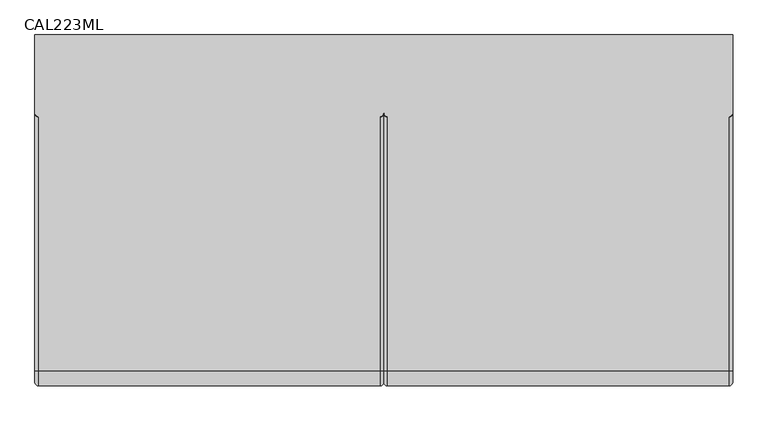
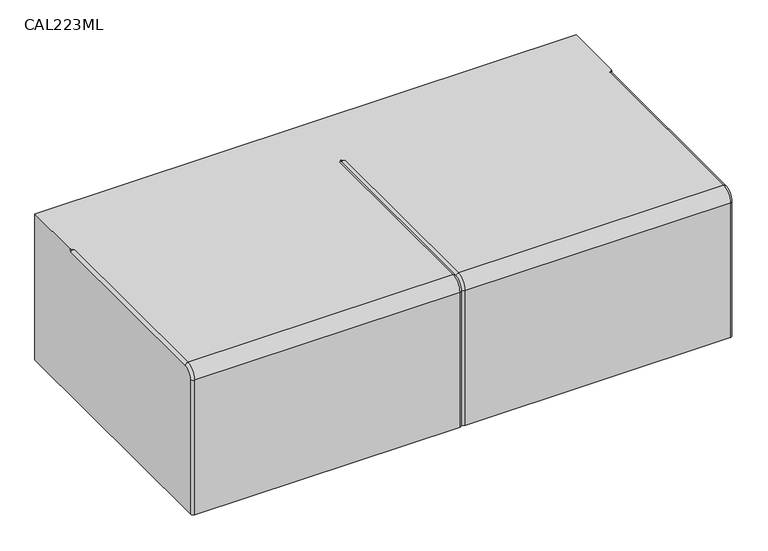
"""IFC4 building model written with IfcOpenShell, lengths in millimetres: furniture geometry, Stance_Healthacare-Carlson-Arm_Chair : CAL223ML."""

from ifc_helpers import new_model, si_unit, point, frame, origin, place, context, project, spatial, circle_curve, ellipse_curve, trimmed, source, transform, mapped, element, save
from ifc_brep_helpers import plane_surface, cylinder_surface, revolved_surface, advanced_brep


def cal223ml_a5ffef99(model_context):
    return source(origin(), model_context, "Body", "AdvancedBrep", [
        advanced_brep(
        [(584.2, 246.7364918, 120.649997), (584.2, 246.7364918, 454.025), (584.2, 115.9444954, 454.025), (584.2, 113.8812553, 447.675), (584.2, -315.1640295, 447.675), (584.2, -334.2140295, 428.625), (584.2, -334.2140295, 120.649997), (-584.2, 246.7364918, 454.025), (-584.2, 246.7364918, 120.649997), (-584.2, -334.2140295, 120.649997), (-584.2, -334.2140295, 428.625), (-584.2, -315.1640295, 447.675), (-584.2, 113.8812553, 447.675), (-584.2, 115.9444954, 454.025), (-577.85, -340.5640295, 428.625), (-577.85, -340.5640295, 120.649997), (-6.35, -340.5640295, 120.649997), (-6.35, -340.5640295, 428.625), (577.85, -340.5640295, 120.649997), (577.85, -340.5640295, 428.625), (6.35, -340.5640295, 428.625), (6.35, -340.5640295, 120.649997), (0.0, -334.2140295, 120.649997), (-577.85, 109.2677103, 454.025), (-577.85, -315.1640295, 454.025), (-6.35, -315.1640295, 454.025), (-6.35, 109.2677103, 454.025), (0.0, 115.9444954, 454.025), (6.35, 109.2677103, 454.025), (6.35, -315.1640295, 454.025), (577.85, -315.1640295, 454.025), (577.85, 109.2677103, 454.025), (0.0, 113.8812553, 447.675), (0.0, -315.1640295, 447.675), (0.0, -334.2140295, 428.625)],
        [
            (0, 1),
            (1, 2),
            (2, 3),
            (3, 4),
            (4, 5, circle_curve(frame((584.2, -315.1640295, 428.625), z_axis=(1.0, 0.0, 0.0), x_axis=(0.0, 0.0, 1.0)), 19.05)),
            (5, 6),
            (6, 0),
            (7, 8),
            (8, 9),
            (9, 10),
            (10, 11, circle_curve(frame((-584.2, -315.1640295, 428.625), z_axis=(-1.0, 0.0, 0.0), x_axis=(0.0, 0.0, 1.0)), 19.05)),
            (11, 12),
            (12, 13),
            (13, 7),
            (14, 15),
            (15, 16),
            (16, 17),
            (17, 14),
            (18, 19),
            (19, 20),
            (20, 21),
            (21, 18),
            (8, 0),
            (6, 18, circle_curve(frame((577.85, -334.2140295, 120.649997), z_axis=(0.0, 0.0, -1.0), x_axis=(0.0, 1.0, 0.0)), 6.35)),
            (21, 22, circle_curve(frame((6.35, -334.2140295, 120.649997), z_axis=(0.0, 0.0, -1.0), x_axis=(0.0, 1.0, 0.0)), 6.35)),
            (22, 16, circle_curve(frame((-6.35, -334.2140295, 120.649997), z_axis=(0.0, 0.0, -1.0), x_axis=(0.0, 1.0, 0.0)), 6.35)),
            (15, 9, circle_curve(frame((-577.85, -334.2140295, 120.649997), z_axis=(0.0, 0.0, -1.0), x_axis=(0.0, 1.0, 0.0)), 6.35)),
            (1, 7),
            (13, 23, ellipse_curve(frame((-577.85, 115.9444954, 454.025), z_axis=(0.0, 0.0, 1.0), x_axis=(0.0, -1.0, 0.0)), 6.6767851, 6.35)),
            (23, 24),
            (24, 25),
            (25, 26),
            (26, 27, ellipse_curve(frame((-6.35, 115.9444954, 454.025), z_axis=(0.0, 0.0, 1.0), x_axis=(0.0, -1.0, 0.0)), 6.6767851, 6.35)),
            (27, 28, ellipse_curve(frame((6.35, 115.9444954, 454.025), z_axis=(0.0, 0.0, 1.0), x_axis=(0.0, -1.0, 0.0)), 6.6767851, 6.35)),
            (28, 29),
            (29, 30),
            (30, 31),
            (31, 2, ellipse_curve(frame((577.85, 115.9444954, 454.025), z_axis=(0.0, 0.0, 1.0), x_axis=(0.0, -1.0, 0.0)), 6.6767851, 6.35)),
            (30, 4, circle_curve(frame((577.85, -315.1640295, 447.675), z_axis=(0.0, 1.0, 0.0), x_axis=(0.0, 0.0, -1.0)), 6.35)),
            (3, 31, ellipse_curve(frame((577.85, 113.8812553, 447.675), z_axis=(0.0, -0.8090169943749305, -0.5877852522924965), x_axis=(0.0, -0.5877852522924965, 0.8090169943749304)), 7.8490317, 6.35)),
            (11, 24, circle_curve(frame((-577.85, -315.1640295, 447.675), z_axis=(0.0, 1.0, 0.0), x_axis=(0.0, 0.0, -1.0)), 6.35)),
            (23, 12, ellipse_curve(frame((-577.85, 113.8812553, 447.675), z_axis=(0.0, -0.8090169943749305, -0.5877852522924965), x_axis=(0.0, -0.5877852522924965, 0.8090169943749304)), 7.8490317, 6.35)),
            (24, 14, circle_curve(frame((-577.85, -315.1640295, 428.625), z_axis=(1.0, 0.0, 0.0), x_axis=(0.0, 1.0, 0.0)), 25.4)),
            (17, 25, circle_curve(frame((-6.35, -315.1640295, 428.625), z_axis=(-1.0, 0.0, 0.0), x_axis=(0.0, 1.0, 0.0)), 25.4)),
            (19, 30, circle_curve(frame((577.85, -315.1640295, 428.625), z_axis=(-1.0, 0.0, 0.0), x_axis=(0.0, 1.0, 0.0)), 25.4)),
            (29, 20, circle_curve(frame((6.35, -315.1640295, 428.625), z_axis=(1.0, 0.0, 0.0), x_axis=(0.0, 1.0, 0.0)), 25.4)),
            (10, 14, circle_curve(frame((-577.85, -334.2140295, 428.625), z_axis=(0.0, 0.0, 1.0), x_axis=(0.0, 1.0, 0.0)), 6.35)),
            (19, 5, circle_curve(frame((577.85, -334.2140295, 428.625), z_axis=(0.0, 0.0, 1.0), x_axis=(0.0, 1.0, 0.0)), 6.35)),
            (32, 33),
            (33, 29, circle_curve(frame((6.35, -315.1640295, 447.675), z_axis=(0.0, 1.0, 0.0), x_axis=(0.0, 0.0, -1.0)), 6.35)),
            (28, 32, ellipse_curve(frame((6.35, 113.8812553, 447.675), z_axis=(0.0, -0.8090169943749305, -0.5877852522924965), x_axis=(0.0, -0.5877852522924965, 0.8090169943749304)), 7.8490317, 6.35)),
            (32, 26, ellipse_curve(frame((-6.35, 113.8812553, 447.675), z_axis=(0.0, -0.8090169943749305, -0.5877852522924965), x_axis=(0.0, -0.5877852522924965, 0.8090169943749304)), 7.8490317, 6.35)),
            (25, 33, circle_curve(frame((-6.35, -315.1640295, 447.675), z_axis=(0.0, 1.0, 0.0), x_axis=(0.0, 0.0, -1.0)), 6.35)),
            (33, 34, circle_curve(frame((0.0, -315.1640295, 428.625), z_axis=(1.0, 0.0, 0.0), x_axis=(0.0, 0.0, 1.0)), 19.05)),
            (34, 20, circle_curve(frame((6.35, -334.2140295, 428.625), z_axis=(0.0, 0.0, 1.0), x_axis=(0.0, 1.0, 0.0)), 6.35)),
            (17, 34, circle_curve(frame((-6.35, -334.2140295, 428.625), z_axis=(0.0, 0.0, 1.0), x_axis=(0.0, 1.0, 0.0)), 6.35)),
            (34, 22),
            (27, 32),
        ],
        [
            plane_surface(frame((584.2, -289.7640295, 428.625), z_axis=(1.0, 0.0, 0.0), x_axis=(0.0, 0.0, 1.0))),
            plane_surface(frame((-584.2, -289.7640295, 428.625), z_axis=(-1.0, 0.0, 0.0), x_axis=(0.0, 0.0, -1.0))),
            plane_surface(frame((584.2, -340.5640295, 428.625), z_axis=(0.0, -1.0, 0.0), x_axis=(-1.0, 0.0, 0.0))),
            plane_surface(frame((584.2, -340.5640295, 120.649997), z_axis=(0.0, 0.0, -1.0), x_axis=(-1.0, 0.0, 0.0))),
            plane_surface(frame((584.2, 246.7364918, 454.025), z_axis=(0.0, 0.0, 1.0), x_axis=(-1.0, 0.0, 0.0))),
            cylinder_surface(frame((577.85, 109.2677103, 447.675), z_axis=(0.0, -1.0, 0.0), x_axis=(0.0, 0.0, -1.0)), 6.35),
            cylinder_surface(frame((-577.85, 109.2677103, 447.675), z_axis=(0.0, -1.0, 0.0), x_axis=(0.0, 0.0, -1.0)), 6.35),
            cylinder_surface(frame((-584.2, -315.1640295, 428.625), z_axis=(1.0, 0.0, 0.0), x_axis=(0.0, 1.0, 0.0)), 25.4),
            plane_surface(frame((584.2, 246.7364918, 120.649997), z_axis=(0.0, 1.0, 0.0), x_axis=(-1.0, 0.0, 0.0))),
            revolved_surface(trimmed(ellipse_curve(frame((-577.85, -315.1640295, 447.675), z_axis=(0.0, 1.0, 0.0), x_axis=(0.0, 0.0, -1.0)), 6.35, 6.35), [point((-584.2, -315.1640295, 447.675))], [point((-577.85, -315.1640295, 454.025))], True, "CARTESIAN"), (-584.2, -315.1640295, 428.625), (1.0, 0.0, 0.0)),
            cylinder_surface(frame((-577.85, -334.2140295, 428.625), z_axis=(0.0, 0.0, -1.0), x_axis=(0.0, 1.0, 0.0)), 6.35),
            revolved_surface(trimmed(ellipse_curve(frame((577.85, -315.1640295, 447.675), z_axis=(0.0, 1.0, 0.0), x_axis=(0.0, 0.0, -1.0)), 6.35, 6.35), [point((577.85, -315.1640295, 454.025))], [point((584.2, -315.1640295, 447.675))], True, "CARTESIAN"), (584.2, -315.1640295, 428.625), (1.0, 0.0, 0.0)),
            cylinder_surface(frame((577.85, -334.2140295, 428.625), z_axis=(0.0, 0.0, -1.0), x_axis=(0.0, 1.0, 0.0)), 6.35),
            cylinder_surface(frame((-577.85, 235.6213022, 822.3523382), z_axis=(0.0, -0.3090169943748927, -0.9510565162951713), x_axis=(0.0, 0.9510565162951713, -0.3090169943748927)), 6.35),
            cylinder_surface(frame((577.85, 235.6213022, 822.3523382), z_axis=(0.0, -0.3090169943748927, -0.9510565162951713), x_axis=(0.0, 0.9510565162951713, -0.3090169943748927)), 6.35),
            cylinder_surface(frame((6.35, 109.2677103, 447.675), z_axis=(0.0, -1.0, 0.0), x_axis=(0.0, 0.0, -1.0)), 6.35),
            cylinder_surface(frame((-6.35, 109.2677103, 447.675), z_axis=(0.0, -1.0, 0.0), x_axis=(0.0, 0.0, -1.0)), 6.35),
            revolved_surface(trimmed(ellipse_curve(frame((6.35, -315.1640295, 447.675), z_axis=(0.0, 1.0, 0.0), x_axis=(0.0, 0.0, -1.0)), 6.35, 6.35), [point((0.0, -315.1640295, 447.675))], [point((6.35, -315.1640295, 454.025))], True, "CARTESIAN"), (0.0, -315.1640295, 428.625), (1.0, 0.0, 0.0)),
            revolved_surface(trimmed(ellipse_curve(frame((-6.35, -315.1640295, 447.675), z_axis=(0.0, 1.0, 0.0), x_axis=(0.0, 0.0, -1.0)), 6.35, 6.35), [point((-6.35, -315.1640295, 454.025))], [point((0.0, -315.1640295, 447.675))], True, "CARTESIAN"), (0.0, -315.1640295, 428.625), (1.0, 0.0, 0.0)),
            cylinder_surface(frame((6.35, -334.2140295, 428.625), z_axis=(0.0, 0.0, -1.0), x_axis=(0.0, 1.0, 0.0)), 6.35),
            cylinder_surface(frame((-6.35, -334.2140295, 428.625), z_axis=(0.0, 0.0, -1.0), x_axis=(0.0, 1.0, 0.0)), 6.35),
            cylinder_surface(frame((6.35, 235.6213022, 822.3523382), z_axis=(0.0, -0.3090169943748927, -0.9510565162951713), x_axis=(0.0, 0.9510565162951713, -0.3090169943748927)), 6.35),
            cylinder_surface(frame((-6.35, 235.6213022, 822.3523382), z_axis=(0.0, -0.3090169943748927, -0.9510565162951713), x_axis=(0.0, 0.9510565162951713, -0.3090169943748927)), 6.35),
        ],
        [
            (0, [[1, 2, 3, 4, 5, 6, 7]]),
            (1, [[8, 9, 10, 11, 12, 13, 14]]),
            (2, [[15, 16, 17, 18]]),
            (2, [[19, 20, 21, 22]]),
            (3, [[23, -7, 24, -22, 25, 26, -16, 27, -9]]),
            (4, [[28, -14, 29, 30, 31, 32, 33, 34, 35, 36, 37, 38, -2]]),
            (5, [[39, -4, 40, -37]]),
            (6, [[41, -30, 42, -12]]),
            (7, [[43, -18, 44, -31]]),
            (7, [[45, -36, 46, -20]]),
            (8, [[-1, -23, -8, -28]]),
            (9, [[-41, -11, 47, -43]]),
            (10, [[-47, -10, -27, -15]]),
            (11, [[-39, -45, 48, -5]]),
            (12, [[-48, -19, -24, -6]]),
            (13, [[-42, -29, -13]]),
            (14, [[-40, -3, -38]]),
            (15, [[49, 50, -35, 51]]),
            (16, [[-49, 52, -32, 53]]),
            (17, [[-50, 54, 55, -46]]),
            (18, [[-53, -44, 56, -54]]),
            (19, [[-55, 57, -25, -21]]),
            (20, [[-56, -17, -26, -57]]),
            (21, [[-51, -34, 58]]),
            (22, [[-52, -58, -33]]),
        ],
    ),
    ])


if __name__ == "__main__":
    model = new_model("IFC4")
    model_context = context("Model", 3, world=origin())
    ifc_project = project(units=[si_unit("LENGTHUNIT", "METRE", prefix="MILLI")], contexts=[model_context])
    site = spatial("IfcSite", under=ifc_project)
    building = spatial("IfcBuilding", under=site)
    placement = place(None, origin())
    cal223ml_shape = cal223ml_a5ffef99(model_context)
    element("IfcFurniture", 1, ObjectType="Stance_Healthacare-Carlson-Arm_Chair : CAL223ML", at=placement, inside=building, context=model_context, shape_type="MappedRepresentation", body=[
        mapped(cal223ml_shape, transform((0.0, 0.0, 0.0), x_axis=(1.0, 0.0, 0.0), y_axis=(0.0, 1.0, 0.0), z_axis=(0.0, 0.0, 1.0))),
    ])
    save(model, "model.ifc")
